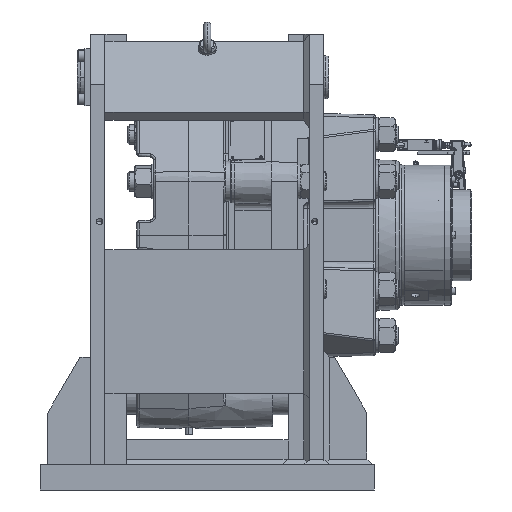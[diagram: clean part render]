
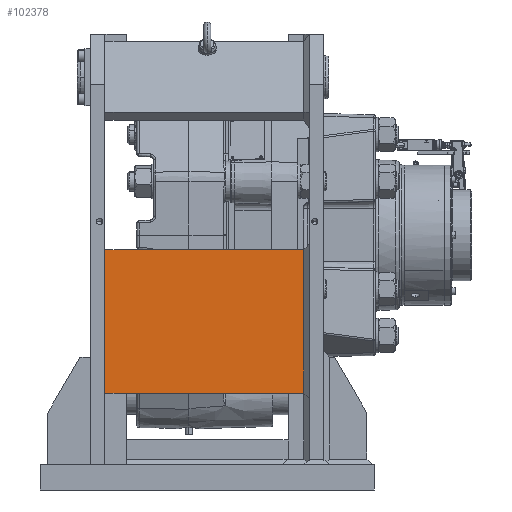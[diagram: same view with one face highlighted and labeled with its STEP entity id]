
A CAD part, front view. The second image highlights one B-rep face of the part: STEP entity #102378.
In plain terms, the highlighted planar face has unit normal (0, -1, 0).
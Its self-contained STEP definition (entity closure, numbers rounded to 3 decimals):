
#89428=DIRECTION('',(0.,0.,1.));
#89429=VECTOR('',#89428,200.);
#89430=CARTESIAN_POINT('',(-375.,-235.,100.));
#89431=LINE('',#89430,#89429);
#95068=DIRECTION('',(0.,0.,1.));
#95069=VECTOR('',#95068,200.);
#95070=CARTESIAN_POINT('',(-98.,-235.,100.));
#95071=LINE('',#95070,#95069);
#95075=DIRECTION('',(1.,0.,0.));
#95076=VECTOR('',#95075,277.);
#95077=CARTESIAN_POINT('',(-375.,-235.,100.));
#95078=LINE('',#95077,#95076);
#95089=DIRECTION('',(1.,0.,0.));
#95090=VECTOR('',#95089,277.);
#95091=CARTESIAN_POINT('',(-375.,-235.,300.));
#95092=LINE('',#95091,#95090);
#96048=CARTESIAN_POINT('',(-375.,-235.,100.));
#96050=VERTEX_POINT('',#96048);
#96051=CARTESIAN_POINT('',(-375.,-235.,300.));
#96052=VERTEX_POINT('',#96051);
#96144=CARTESIAN_POINT('',(-98.,-235.,100.));
#96146=VERTEX_POINT('',#96144);
#96147=CARTESIAN_POINT('',(-98.,-235.,300.));
#96148=VERTEX_POINT('',#96147);
#102366=CARTESIAN_POINT('',(110.36,-235.,300.));
#102367=DIRECTION('',(0.,1.,0.));
#102368=DIRECTION('',(0.,0.,1.));
#102369=AXIS2_PLACEMENT_3D('',#102366,#102367,#102368);
#102370=PLANE('',#102369);
#102371=ORIENTED_EDGE('',*,*,#102356,.F.);
#102372=ORIENTED_EDGE('',*,*,#102331,.F.);
#102373=ORIENTED_EDGE('',*,*,#96901,.T.);
#102375=ORIENTED_EDGE('',*,*,#102374,.T.);
#102376=EDGE_LOOP('',(#102371,#102372,#102373,#102375));
#102377=FACE_OUTER_BOUND('',#102376,.F.);
#102378=ADVANCED_FACE('',(#102377),#102370,.F.);
#96901=EDGE_CURVE('',#96050,#96052,#89431,.T.);
#102331=EDGE_CURVE('',#96050,#96146,#95078,.T.);
#102356=EDGE_CURVE('',#96146,#96148,#95071,.T.);
#102374=EDGE_CURVE('',#96052,#96148,#95092,.T.);
